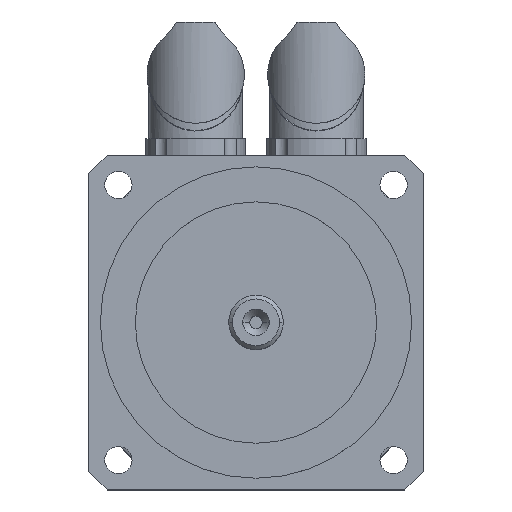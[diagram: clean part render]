
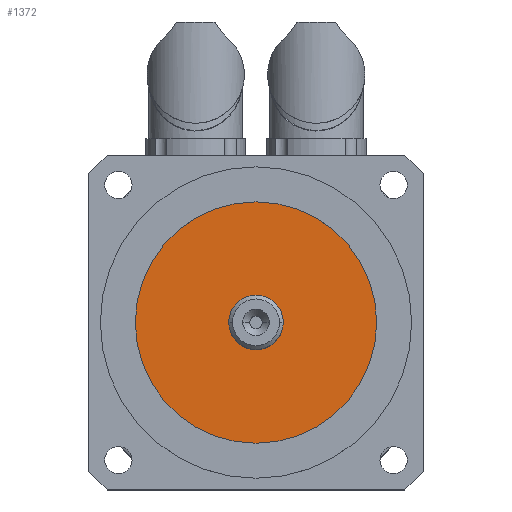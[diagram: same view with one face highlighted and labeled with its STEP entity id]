
A CAD part, top view. The second image highlights one B-rep face of the part: STEP entity #1372.
In plain terms, the highlighted planar face has unit normal (0, 0, 1).
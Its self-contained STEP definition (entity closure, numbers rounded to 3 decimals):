
#214=CARTESIAN_POINT('',(-31.0,0.,195.5));
#215=VERTEX_POINT('',#214);
#224=CARTESIAN_POINT('',(31.0,0.,195.5));
#225=VERTEX_POINT('',#224);
#226=CARTESIAN_POINT('',(0.0,0.0,195.5));
#227=DIRECTION('',(0.0,0.0,1.0));
#228=DIRECTION('',(-1.0,0.0,0.0));
#229=AXIS2_PLACEMENT_3D('',#226,#227,#228);
#230=CIRCLE('',#229,31.0);
#231=EDGE_CURVE('',#225,#215,#230,.T.);
#508=CARTESIAN_POINT('',(-7.,0.,195.5));
#509=VERTEX_POINT('',#508);
#518=CARTESIAN_POINT('',(7.,0.,195.5));
#519=VERTEX_POINT('',#518);
#520=CARTESIAN_POINT('',(0.0,0.0,195.5));
#521=DIRECTION('',(0.0,0.0,-1.0));
#522=DIRECTION('',(-1.0,0.0,0.0));
#523=AXIS2_PLACEMENT_3D('',#520,#521,#522);
#524=CIRCLE('',#523,7.);
#525=EDGE_CURVE('',#519,#509,#524,.T.);
#1055=CARTESIAN_POINT('',(0.0,0.0,195.5));
#1056=DIRECTION('',(0.0,0.0,-1.0));
#1057=DIRECTION('',(-1.0,0.0,0.0));
#1058=AXIS2_PLACEMENT_3D('',#1055,#1056,#1057);
#1059=CIRCLE('',#1058,7.);
#1060=EDGE_CURVE('',#509,#519,#1059,.T.);
#1349=CARTESIAN_POINT('',(0.0,0.0,195.5));
#1350=DIRECTION('',(0.0,0.0,1.0));
#1351=DIRECTION('',(-1.0,0.0,0.0));
#1352=AXIS2_PLACEMENT_3D('',#1349,#1350,#1351);
#1353=CIRCLE('',#1352,31.0);
#1354=EDGE_CURVE('',#215,#225,#1353,.T.);
#1359=CARTESIAN_POINT('',(0.0,0.0,195.5));
#1360=DIRECTION('',(0.0,0.0,-1.0));
#1361=DIRECTION('',(-1.0,0.0,0.0));
#1362=AXIS2_PLACEMENT_3D('',#1359,#1360,#1361);
#1363=PLANE('',#1362);
#1364=ORIENTED_EDGE('',*,*,#231,.T.);
#1365=ORIENTED_EDGE('',*,*,#1354,.T.);
#1366=EDGE_LOOP('',(#1364,#1365));
#1367=FACE_OUTER_BOUND('',#1366,.T.);
#1368=ORIENTED_EDGE('',*,*,#525,.T.);
#1369=ORIENTED_EDGE('',*,*,#1060,.T.);
#1370=EDGE_LOOP('',(#1368,#1369));
#1371=FACE_BOUND('',#1370,.T.);
#1372=ADVANCED_FACE('',(#1367,#1371),#1363,.F.);
